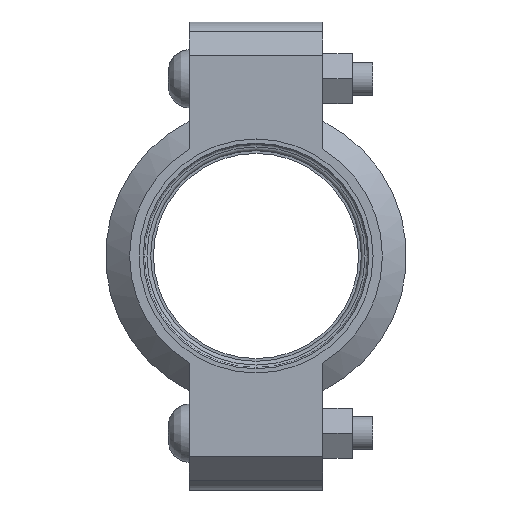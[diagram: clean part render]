
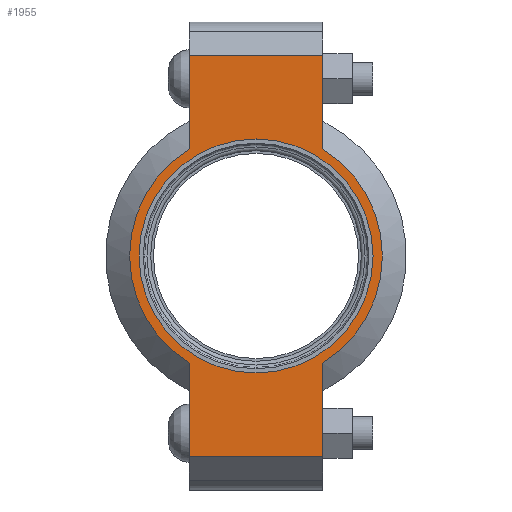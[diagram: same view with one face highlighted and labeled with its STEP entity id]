
A CAD part, left-side view. The second image highlights one B-rep face of the part: STEP entity #1955.
In plain terms, the highlighted planar face has unit normal (-1, 0, 0) as drawn and (0, 0, 1) by its records, which use the part's own axes.
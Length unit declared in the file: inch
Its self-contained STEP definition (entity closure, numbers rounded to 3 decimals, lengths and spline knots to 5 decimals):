
#144=LINE('',#3465,#241);
#152=LINE('',#3501,#249);
#159=LINE('',#3522,#256);
#168=LINE('',#3554,#265);
#169=LINE('',#3558,#266);
#170=LINE('',#3560,#267);
#241=VECTOR('',#2825,0.3937);
#249=VECTOR('',#2841,0.3937);
#256=VECTOR('',#2860,0.3937);
#265=VECTOR('',#2885,0.3937);
#266=VECTOR('',#2890,0.3937);
#267=VECTOR('',#2891,0.3937);
#323=FACE_BOUND('',#573,.T.);
#367=PLANE('',#2294);
#455=FACE_OUTER_BOUND('',#572,.T.);
#572=EDGE_LOOP('',(#1676,#1677,#1678,#1679,#1680,#1681,#1682,#1683));
#573=EDGE_LOOP('',(#1684));
#745=CIRCLE('',#2295,1.89);
#746=CIRCLE('',#2296,1.89);
#747=CIRCLE('',#2297,1.75);
#909=VERTEX_POINT('',#3462);
#910=VERTEX_POINT('',#3464);
#921=VERTEX_POINT('',#3496);
#922=VERTEX_POINT('',#3500);
#929=VERTEX_POINT('',#3519);
#930=VERTEX_POINT('',#3521);
#940=VERTEX_POINT('',#3557);
#941=VERTEX_POINT('',#3559);
#942=VERTEX_POINT('',#3562);
#1154=EDGE_CURVE('',#910,#909,#144,.T.);
#1168=EDGE_CURVE('',#922,#921,#152,.T.);
#1178=EDGE_CURVE('',#930,#929,#159,.T.);
#1193=EDGE_CURVE('',#922,#909,#168,.T.);
#1194=EDGE_CURVE('',#921,#930,#745,.T.);
#1195=EDGE_CURVE('',#940,#929,#169,.T.);
#1196=EDGE_CURVE('',#940,#941,#170,.T.);
#1197=EDGE_CURVE('',#941,#910,#746,.T.);
#1198=EDGE_CURVE('',#942,#942,#747,.T.);
#1676=ORIENTED_EDGE('',*,*,#1193,.F.);
#1677=ORIENTED_EDGE('',*,*,#1168,.T.);
#1678=ORIENTED_EDGE('',*,*,#1194,.T.);
#1679=ORIENTED_EDGE('',*,*,#1178,.T.);
#1680=ORIENTED_EDGE('',*,*,#1195,.F.);
#1681=ORIENTED_EDGE('',*,*,#1196,.T.);
#1682=ORIENTED_EDGE('',*,*,#1197,.T.);
#1683=ORIENTED_EDGE('',*,*,#1154,.T.);
#1684=ORIENTED_EDGE('',*,*,#1198,.T.);
#1955=ADVANCED_FACE('',(#455,#323),#367,.T.);
#2294=AXIS2_PLACEMENT_3D('',#3555,#2886,#2887);
#2295=AXIS2_PLACEMENT_3D('',#3556,#2888,#2889);
#2296=AXIS2_PLACEMENT_3D('',#3561,#2892,#2893);
#2297=AXIS2_PLACEMENT_3D('',#3563,#2894,#2895);
#2825=DIRECTION('',(1.,0.,0.));
#2841=DIRECTION('',(-1.,0.,0.));
#2860=DIRECTION('',(-1.,0.,0.));
#2885=DIRECTION('',(0.,-1.,0.));
#2886=DIRECTION('center_axis',(0.,0.,1.));
#2887=DIRECTION('ref_axis',(-1.,0.,0.));
#2888=DIRECTION('center_axis',(0.,0.,1.));
#2889=DIRECTION('ref_axis',(1.,0.,0.));
#2890=DIRECTION('',(0.,1.,0.));
#2891=DIRECTION('',(1.,0.,0.));
#2892=DIRECTION('center_axis',(0.,0.,1.));
#2893=DIRECTION('ref_axis',(1.,0.,0.));
#2894=DIRECTION('center_axis',(0.,0.,-1.));
#2895=DIRECTION('ref_axis',(1.,0.,0.));
#3462=CARTESIAN_POINT('',(3.,-1.,0.94));
#3464=CARTESIAN_POINT('',(1.60378,-1.,0.94));
#3465=CARTESIAN_POINT('',(3.5,-1.,0.94));
#3496=CARTESIAN_POINT('',(1.60378,1.,0.94));
#3500=CARTESIAN_POINT('',(3.,1.,0.94));
#3501=CARTESIAN_POINT('',(-3.5,1.,0.94));
#3519=CARTESIAN_POINT('',(-3.,1.,0.94));
#3521=CARTESIAN_POINT('',(-1.60378,1.,0.94));
#3522=CARTESIAN_POINT('',(-3.5,1.,0.94));
#3554=CARTESIAN_POINT('',(3.,-0.5,0.94));
#3555=CARTESIAN_POINT('Origin',(0.,0.,
0.94));
#3556=CARTESIAN_POINT('Origin',(0.,0.,0.94));
#3557=CARTESIAN_POINT('',(-3.,-1.,0.94));
#3558=CARTESIAN_POINT('',(-3.,0.5,0.94));
#3559=CARTESIAN_POINT('',(-1.60378,-1.,0.94));
#3560=CARTESIAN_POINT('',(3.5,-1.,0.94));
#3561=CARTESIAN_POINT('Origin',(0.,0.,0.94));
#3562=CARTESIAN_POINT('',(-1.75,0.,0.94));
#3563=CARTESIAN_POINT('Origin',(0.,0.,0.94));
